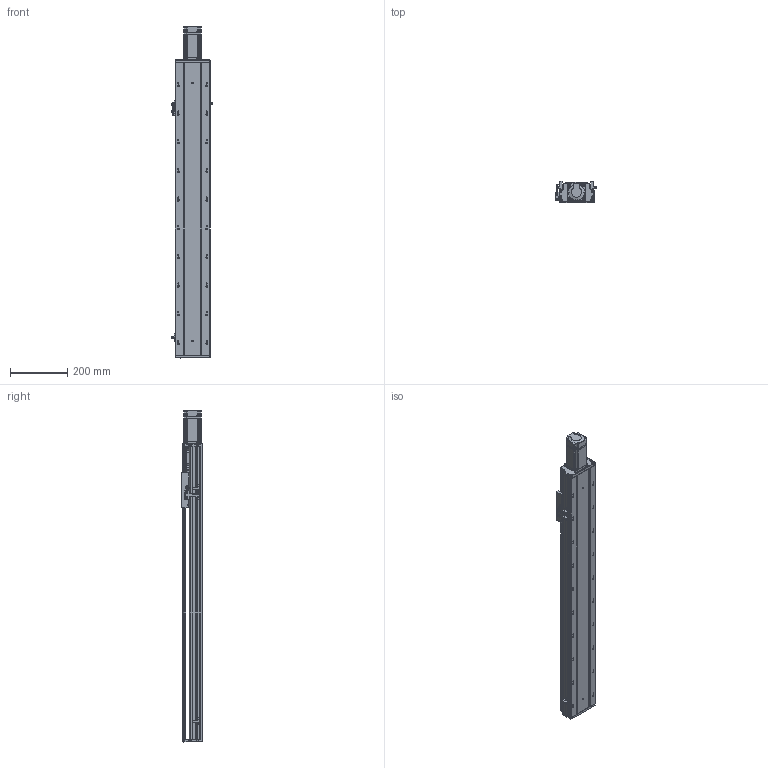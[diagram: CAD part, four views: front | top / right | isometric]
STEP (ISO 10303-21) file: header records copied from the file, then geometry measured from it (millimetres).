
FILE_DESCRIPTION (( 'STEP AP203' ), '1' );
FILE_NAME ('RYK120-L1610-S750-M40-C3-MK.STEP', '2026-03-09T07:35:09', ( '' ), ( '' ), 'SwSTEP 2.0', 'SolidWorks 2016', '' );
FILE_SCHEMA (( 'CONFIG_CONTROL_DESIGN' ));
Length unit declared in the file: millimetre
Products named in the file (17): RYK120-L1610-S750-M40-C3-MK; RY120QGB-1.8; 2.10.1.C521-V1.0RY120臏賑輸16蹟譫-啞-JZZY-NRL-L1899; 侂狟400W侜督萇儂; RYK170-薊粣ん芵隴裔啣; RYK120-300-MK-奻裔啣-啞_750; RY120电机端支撑座-压铸加工-M5; RY120綴裔啣; 44-49-12-14; 15; RY120-16螺母油路-集中注油组合; CB╱T 3762-1996[锥形润滑油嘴1-ZM10×1]_1-ZM10×1; 滅袉蝶18-24; RYK120-300-MK-菁釱-啞_750; RY120外置感应片(140共用）; 覜茼ん672; 滅袉蝶18-10
Assembly tree (21 placements, depth 3):
  RYK120-L1610-S750-M40-C3-MK
    RYK120-300-MK-菁釱-啞_750
    RYK120-300-MK-奻裔啣-啞_750
    RY120綴裔啣
    滅袉蝶18-24  x2
    滅袉蝶18-10  x2
    覜茼ん672  x3
    RY120外置感应片(140共用）
    RY120QGB-1.8
    RY120-16螺母油路-集中注油组合
      2.10.1.C521-V1.0RY120臏賑輸16蹟譫-啞-JZZY-NRL-L1899
      CB╱T 3762-1996[锥形润滑油嘴1-ZM10×1]_1-ZM10×1  x2
    RY120电机端支撑座-压铸加工-M5
    RYK170-薊粣ん芵隴裔啣
    44-49-12-14
    侂狟400W侜督萇儂
      15
Bounding box: 145.7 x 73 x 1158.5 mm (x, y, z)
Volume: 3147703.8 mm3; surface area: 1098429.4 mm2
Topology: 23 solids, 23 shells, 2720 faces, 7598 edges, 4869 vertices
Faces by surface type: plane 1231, cylinder 1093, cone 269, bspline 127
Entity records: 92036 total; most frequent: CARTESIAN_POINT 27246, ORIENTED_EDGE 13704, DIRECTION 12411, EDGE_CURVE 6852, VERTEX_POINT 4481, AXIS2_PLACEMENT_3D 4278, VECTOR 3855, LINE 3855
